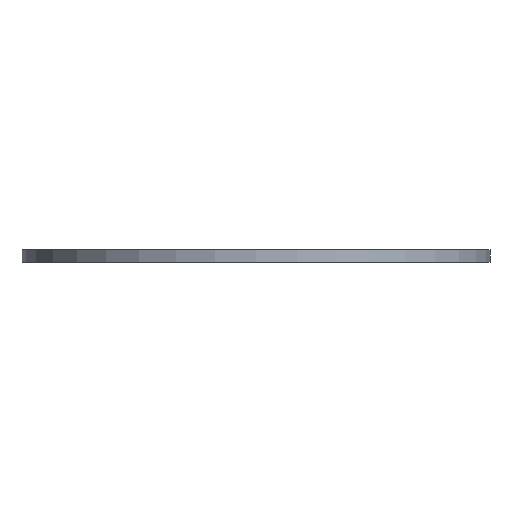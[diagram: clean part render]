
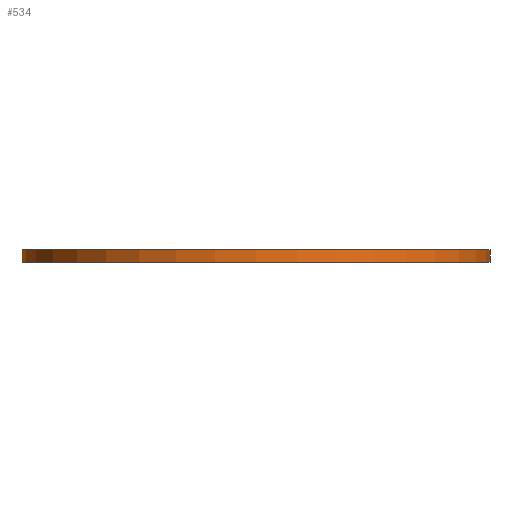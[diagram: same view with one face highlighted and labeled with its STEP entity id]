
A CAD part, front view. The second image highlights one B-rep face of the part: STEP entity #534.
In plain terms, the highlighted cylindrical face has radius 547.5 mm (diameter 1095 mm), a full revolution.
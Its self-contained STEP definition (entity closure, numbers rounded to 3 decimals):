
#40=FACE_BOUND($,#170,.T.);
#118=FACE_OUTER_BOUND($,#169,.T.);
#169=EDGE_LOOP($,(#429));
#170=EDGE_LOOP($,(#430));
#273=CIRCLE($,#616,547.5);
#274=CIRCLE($,#617,547.5);
#325=VERTEX_POINT($,#909);
#326=VERTEX_POINT($,#911);
#377=EDGE_CURVE($,#325,#325,#273,.T.);
#378=EDGE_CURVE($,#326,#326,#274,.T.);
#429=ORIENTED_EDGE($,*,*,#377,.F.);
#430=ORIENTED_EDGE($,*,*,#378,.F.);
#508=CYLINDRICAL_SURFACE($,#615,547.5);
#534=ADVANCED_FACE($,(#118,#40),#508,.T.);
#615=AXIS2_PLACEMENT_3D($,#908,#772,#773);
#616=AXIS2_PLACEMENT_3D($,#910,#774,#775);
#617=AXIS2_PLACEMENT_3D($,#912,#776,#777);
#772=DIRECTION('center_axis',(0.,0.,1.));
#773=DIRECTION('ref_axis',(-1.,0.,0.));
#774=DIRECTION('center_axis',(0.,0.,1.));
#775=DIRECTION('ref_axis',(-1.,0.,0.));
#776=DIRECTION('center_axis',(0.,0.,-1.));
#777=DIRECTION('ref_axis',(-1.,0.,0.));
#908=CARTESIAN_POINT('Origin',(0.,0.,0.));
#909=CARTESIAN_POINT('',(547.5,0.,30.));
#910=CARTESIAN_POINT('Origin',(0.,0.,30.));
#911=CARTESIAN_POINT('',(547.5,0.,0.));
#912=CARTESIAN_POINT('Origin',(0.,0.,0.));
